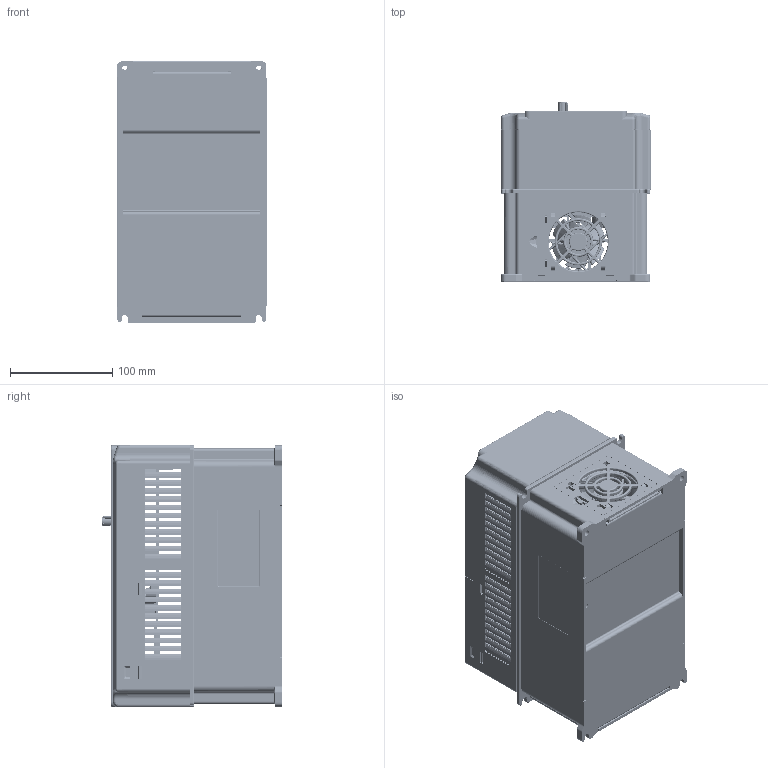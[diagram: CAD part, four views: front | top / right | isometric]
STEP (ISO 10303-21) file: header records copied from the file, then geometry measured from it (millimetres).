
FILE_DESCRIPTION((''),'2;1');
FILE_NAME('GD100-5R5G-4_ASM','2016-12-13T',('Administrator'),(''),'PRO/ENGINEER BY PARAMETRIC TECHNOLOGY CORPORATION, 2010100','PRO/ENGINEER BY PARAMETRIC TECHNOLOGY CORPORATION, 2010100','');
FILE_SCHEMA(('CONFIG_CONTROL_DESIGN'));
Products named in the file (19): 80740040; 80740039; 80740034; 80740038; 80740041; 2-21-19-062-BP602524HL; 80350011; S-M3-ZC; 80350011_ASM; 80810010; 80710012; LD100-JP-PCB; 80740127; GD100-JP_ASM; 80310231; 80310231_ASM; 80740096; 80880096; GD100-5R5G-4_ASM
Assembly tree (21 placements, depth 3):
  GD100-5R5G-4_ASM
    80740040
    80740039
    80740034
    80740038
    80740041
    2-21-19-062-BP602524HL
    80350011_ASM
      80350011
      S-M3-ZC  x2
    GD100-JP_ASM
      80810010
      80710012
      LD100-JP-PCB
      80740127
    80310231_ASM
      80310231
      S-M3-ZC  x2
    80740096
    80880096
Bounding box: 146.5 x 175.35 x 256.5 mm (x, y, z)
Volume: 972354.3 mm3; surface area: 939243.9 mm2
Topology: 18 solids, 18 shells, 8633 faces, 24989 edges, 16108 vertices
Faces by surface type: plane 5757, cylinder 1978, torus 339, cone 258, bspline 249, extrusion 22, revolution 16, sphere 14
Entity records: 287598 total; most frequent: CARTESIAN_POINT 64878, ORIENTED_EDGE 48410, DIRECTION 44296, EDGE_CURVE 24205, VECTOR 18166, LINE 18144, VERTEX_POINT 15623, AXIS2_PLACEMENT_3D 13057
